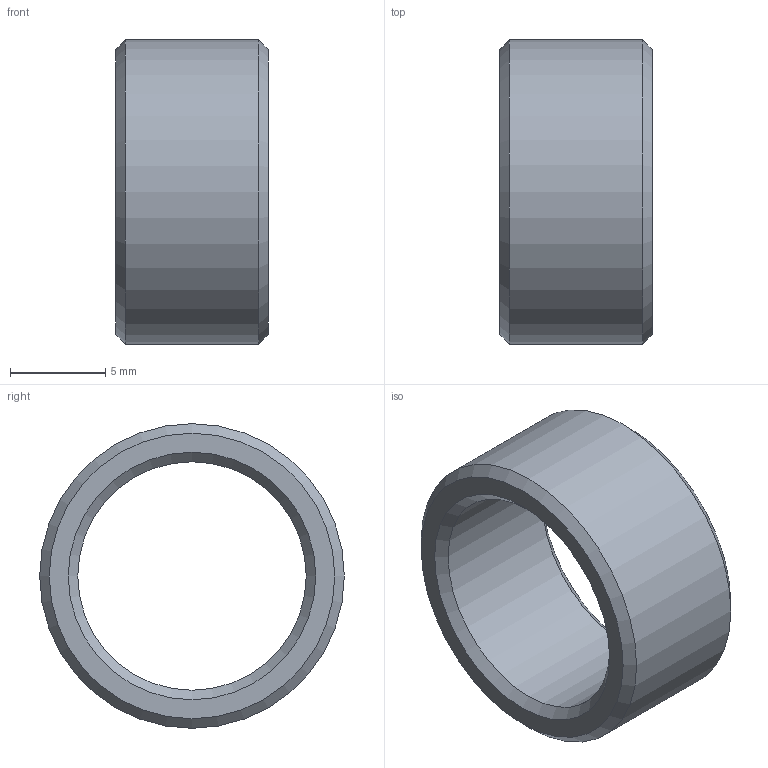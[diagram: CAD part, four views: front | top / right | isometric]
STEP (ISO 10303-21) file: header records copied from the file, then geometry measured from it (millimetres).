
FILE_DESCRIPTION(/* description */ (''),/* implementation_level */ '2;1');
FILE_NAME(/* name */ '',/* time_stamp */ '2026-07-31T13:47:12+09:00',/* author */ ('jhkim'),/* organization */ (''),/* preprocessor_version */ 'ST-DEVELOPER v20.1',/* originating_system */ 'Autodesk Inventor 2027',/* authorisation */ '');
FILE_SCHEMA (('AUTOMOTIVE_DESIGN { 1 0 10303 214 3 1 1 }'));
Length unit declared in the file: millimetre
Products named in the file (1): 칼라
Bounding box: 8 x 16 x 16 mm (x, y, z)
Volume: 681.7 mm3; surface area: 828.1 mm2
Topology: 1 solids, 1 shells, 8 faces, 16 edges, 10 vertices
Faces by surface type: cone 4, plane 2, cylinder 2
Full cylindrical faces by diameter (mm): 12 x1, 16 x1
Entity records: 261 total; most frequent: DIRECTION 44, CARTESIAN_POINT 35, ORIENTED_EDGE 32, AXIS2_PLACEMENT_3D 19, EDGE_CURVE 16, EDGE_LOOP 10, CIRCLE 10, VERTEX_POINT 10
